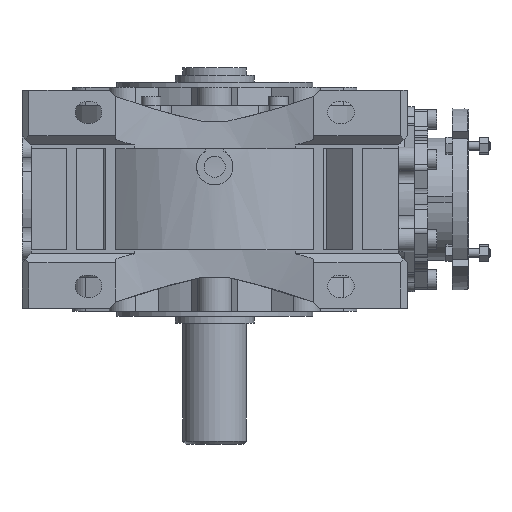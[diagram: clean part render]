
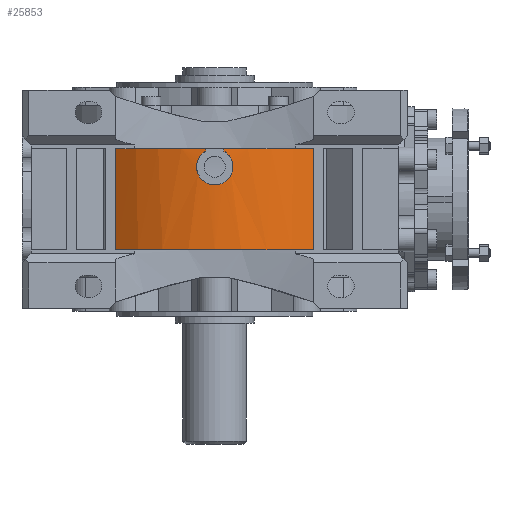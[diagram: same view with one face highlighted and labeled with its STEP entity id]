
A CAD part, front view. The second image highlights one B-rep face of the part: STEP entity #25853.
In plain terms, the highlighted cylindrical face has radius 107.7 mm (diameter 215.4 mm), a partial arc.
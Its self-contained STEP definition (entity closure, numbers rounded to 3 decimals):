
#1206=B_SPLINE_CURVE_WITH_KNOTS('',3,(#41899,#41900,#41901,#41902,#41903,
#41904,#41905,#41906,#41907,#41908,#41909,#41910,#41911,#41912,#41913,#41914,
#41915),.UNSPECIFIED.,.F.,.F.,(4,1,1,1,1,1,1,1,1,1,1,1,1,1,4),(0.,0.004,
0.008,0.012,0.016,0.02,
0.023,0.027,0.031,0.035,
0.039,0.047,0.051,0.055,
0.063),.UNSPECIFIED.);
#1600=CIRCLE('',#27635,107.7);
#1604=CIRCLE('',#27641,107.7);
#1606=CIRCLE('',#27643,107.7);
#4989=ORIENTED_EDGE('',*,*,#11350,.F.);
#4990=ORIENTED_EDGE('',*,*,#11883,.T.);
#4991=ORIENTED_EDGE('',*,*,#11884,.T.);
#4992=ORIENTED_EDGE('',*,*,#11885,.T.);
#4993=ORIENTED_EDGE('',*,*,#11356,.F.);
#4994=ORIENTED_EDGE('',*,*,#11361,.T.);
#4995=ORIENTED_EDGE('',*,*,#11341,.F.);
#4996=ORIENTED_EDGE('',*,*,#11359,.T.);
#11341=EDGE_CURVE('',#15011,#15012,#1600,.F.);
#11350=EDGE_CURVE('',#15018,#15020,#1604,.F.);
#11356=EDGE_CURVE('',#15025,#15026,#1606,.F.);
#11359=EDGE_CURVE('',#15011,#15020,#17241,.T.);
#11361=EDGE_CURVE('',#15025,#15012,#17243,.F.);
#11883=EDGE_CURVE('',#15018,#15375,#17610,.F.);
#11884=EDGE_CURVE('',#15375,#15376,#1206,.T.);
#11885=EDGE_CURVE('',#15376,#15026,#17611,.T.);
#15011=VERTEX_POINT('',#40818);
#15012=VERTEX_POINT('',#40820);
#15018=VERTEX_POINT('',#40836);
#15020=VERTEX_POINT('',#40839);
#15025=VERTEX_POINT('',#40849);
#15026=VERTEX_POINT('',#40851);
#15375=VERTEX_POINT('',#41898);
#15376=VERTEX_POINT('',#41916);
#17241=LINE('',#40856,#19472);
#17243=LINE('',#40859,#19474);
#17610=LINE('',#41897,#19841);
#17611=LINE('',#41917,#19842);
#19472=VECTOR('',#31641,1000.);
#19474=VECTOR('',#31645,1000.);
#19841=VECTOR('',#32624,1000.);
#19842=VECTOR('',#32625,1000.);
#21621=EDGE_LOOP('',(#4989,#4990,#4991,#4992,#4993,#4994,#4995,#4996));
#23456=FACE_BOUND('',#21621,.T.);
#24952=CYLINDRICAL_SURFACE('',#27951,107.7);
#25853=ADVANCED_FACE('',(#23456),#24952,.T.);
#27635=AXIS2_PLACEMENT_3D('',#40819,#31610,#31611);
#27641=AXIS2_PLACEMENT_3D('',#40838,#31627,#31628);
#27643=AXIS2_PLACEMENT_3D('',#40850,#31635,#31636);
#27951=AXIS2_PLACEMENT_3D('',#41896,#32622,#32623);
#31610=DIRECTION('',(0.,0.,-1.));
#31611=DIRECTION('',(-1.,0.,0.));
#31627=DIRECTION('',(0.,0.,1.));
#31628=DIRECTION('',(1.,0.,0.));
#31635=DIRECTION('',(0.,0.,1.));
#31636=DIRECTION('',(1.,0.,0.));
#31641=DIRECTION('',(0.,0.,-1.));
#31645=DIRECTION('',(0.,0.,-1.));
#32622=DIRECTION('',(0.,0.,-1.));
#32623=DIRECTION('',(-1.,0.,0.));
#32624=DIRECTION('',(0.,0.,-1.));
#32625=DIRECTION('',(0.,0.,-1.));
#40818=CARTESIAN_POINT('',(-65.5,-85.493,33.5));
#40819=CARTESIAN_POINT('',(0.,0.,33.5));
#40820=CARTESIAN_POINT('',(65.5,-85.493,33.5));
#40836=CARTESIAN_POINT('',(-6.,-107.533,-33.5));
#40838=CARTESIAN_POINT('',(0.,0.,-33.5));
#40839=CARTESIAN_POINT('',(-65.5,-85.493,-33.5));
#40849=CARTESIAN_POINT('',(65.5,-85.493,-33.5));
#40850=CARTESIAN_POINT('',(0.,0.,-33.5));
#40851=CARTESIAN_POINT('',(6.,-107.533,-33.5));
#40856=CARTESIAN_POINT('',(-65.5,-85.493,40.));
#40859=CARTESIAN_POINT('',(65.5,-85.493,40.));
#41896=CARTESIAN_POINT('',(0.,0.,40.));
#41897=CARTESIAN_POINT('',(-6.,-107.533,40.));
#41898=CARTESIAN_POINT('',(-6.,-107.533,-31.892));
#41899=CARTESIAN_POINT('',(-6.,-107.533,-31.892));
#41900=CARTESIAN_POINT('',(-7.144,-107.469,-31.232));
#41901=CARTESIAN_POINT('',(-9.176,-107.319,-29.561));
#41902=CARTESIAN_POINT('',(-11.284,-107.111,-26.182));
#41903=CARTESIAN_POINT('',(-12.189,-107.008,-22.308));
#41904=CARTESIAN_POINT('',(-11.802,-107.053,-18.344));
#41905=CARTESIAN_POINT('',(-10.161,-107.227,-14.719));
#41906=CARTESIAN_POINT('',(-7.445,-107.458,-11.816));
#41907=CARTESIAN_POINT('',(-3.94,-107.65,-9.937));
#41908=CARTESIAN_POINT('',(-0.012,-107.725,-9.283));
#41909=CARTESIAN_POINT('',(3.917,-107.651,-9.93));
#41910=CARTESIAN_POINT('',(8.603,-107.394,-12.423));
#41911=CARTESIAN_POINT('',(11.669,-107.068,-16.998));
#41912=CARTESIAN_POINT('',(12.19,-107.008,-22.286));
#41913=CARTESIAN_POINT('',(10.992,-107.144,-27.461));
#41914=CARTESIAN_POINT('',(8.288,-107.405,-30.572));
#41915=CARTESIAN_POINT('',(6.,-107.533,-31.892));
#41916=CARTESIAN_POINT('',(6.,-107.533,-31.892));
#41917=CARTESIAN_POINT('',(6.,-107.533,40.));
